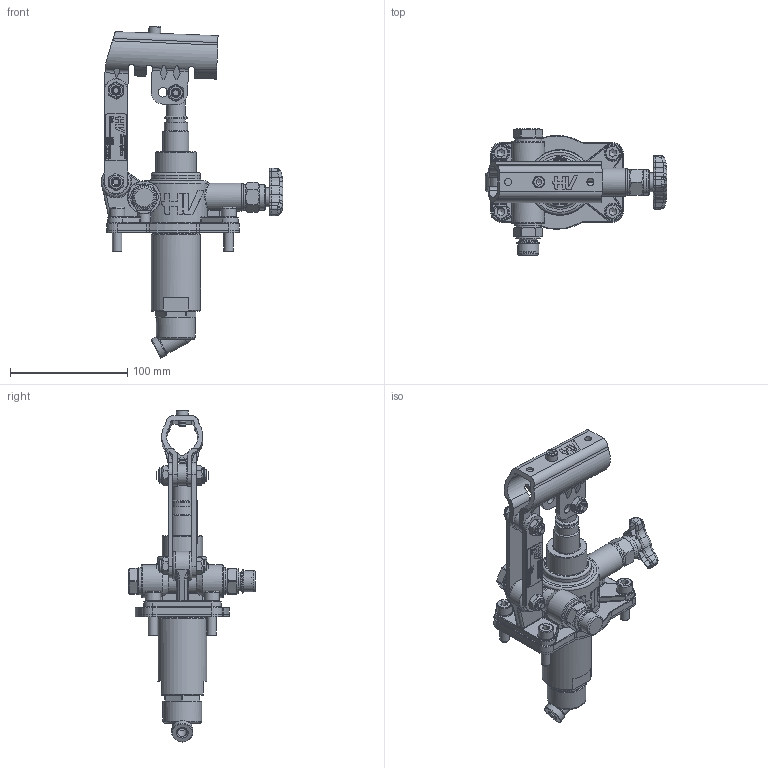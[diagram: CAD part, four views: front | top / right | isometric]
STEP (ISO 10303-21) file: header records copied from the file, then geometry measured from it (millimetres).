
FILE_DESCRIPTION(/* description */ (''),/* implementation_level */ '2;1');
FILE_NAME(/* name */ '6052.6000.stp',/* time_stamp */ '2026-02-12T14:35:55+01:00',/* author */ ('christian.scardovi'),/* organization */ (''),/* preprocessor_version */ 'ST-DEVELOPER v20.1',/* originating_system */ 'Autodesk Inventor 2026',/* authorisation */ '');
FILE_SCHEMA (('AUTOMOTIVE_DESIGN { 1 0 10303 214 3 1 1 }'));
Length unit declared in the file: millimetre
Products named in the file (1): 6052.6000
Bounding box: 154.5 x 107.5 x 282.76 mm (x, y, z)
Volume: 416546.4 mm3; surface area: 184309.4 mm2
Topology: 41 solids, 41 shells, 1899 faces, 4674 edges, 2951 vertices
Faces by surface type: plane 822, cylinder 457, bspline 257, torus 178, cone 168, sphere 17
Full cylindrical faces by diameter (mm): 4 x2, 4.917 x1, 5 x6, 6 x4, 6.5 x2, 6.647 x6, 7.5 x4, 8 x24, 8.1 x1, 8.376 x1, 8.6 x4, 9 x2, 9.2 x1, 10 x3, 10.376 x1, 11.05 x6, 12 x4, 13 x4, 13.2 x1, 14.5 x4, 14.95 x3, 15 x3, 16 x7, 16.5 x1, 16.6 x3, 18 x11, 20 x3, 20.6 x1, 21 x3, 21.6 x1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
Entity records: 68034 total; most frequent: CARTESIAN_POINT 22336, ORIENTED_EDGE 9294, DIRECTION 8681, EDGE_CURVE 4647, AXIS2_PLACEMENT_3D 3190, VERTEX_POINT 2951, LINE 2301, VECTOR 2301
